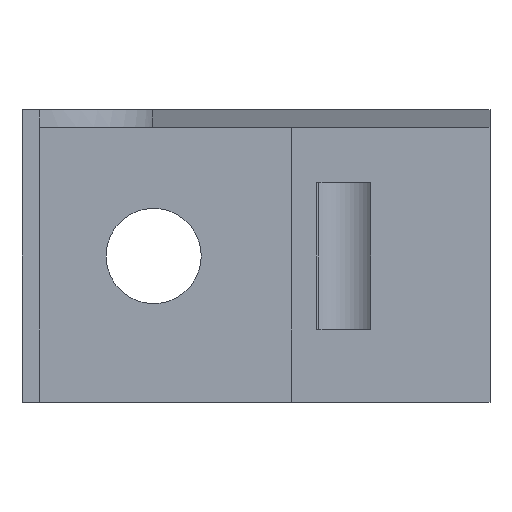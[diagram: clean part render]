
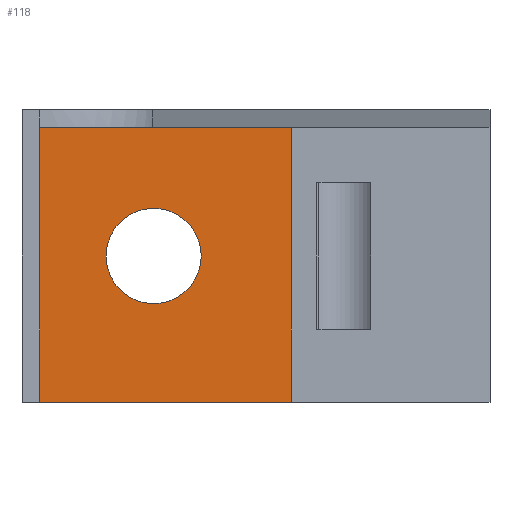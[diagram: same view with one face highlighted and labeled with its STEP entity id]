
A CAD part, left-side view. The second image highlights one B-rep face of the part: STEP entity #118.
In plain terms, the highlighted planar face has unit normal (-1, 0, 0).
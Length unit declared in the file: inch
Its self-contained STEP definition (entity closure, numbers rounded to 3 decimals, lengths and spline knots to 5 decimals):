
#118=ADVANCED_FACE('',(#256,#257),#258,.T.);
#256=FACE_OUTER_BOUND('',#495,.T.);
#257=FACE_BOUND('',#496,.T.);
#258=PLANE('',#497);
#495=EDGE_LOOP('',(#853,#854,#855,#856));
#496=EDGE_LOOP('',(#857,#858,#859,#860));
#497=AXIS2_PLACEMENT_3D('',#861,#862,#863);
#853=ORIENTED_EDGE('',*,*,#1151,.T.);
#854=ORIENTED_EDGE('',*,*,#1152,.F.);
#855=ORIENTED_EDGE('',*,*,#1153,.F.);
#856=ORIENTED_EDGE('',*,*,#1133,.T.);
#857=ORIENTED_EDGE('',*,*,#1154,.T.);
#858=ORIENTED_EDGE('',*,*,#1098,.T.);
#859=ORIENTED_EDGE('',*,*,#1142,.T.);
#860=ORIENTED_EDGE('',*,*,#1042,.T.);
#861=CARTESIAN_POINT('',(3.03935,0.57896,-0.075));
#862=DIRECTION('',(-1.0,-0.0,0.0));
#863=DIRECTION('',(0.0,-1.0,-0.0));
#1042=EDGE_CURVE('',#1225,#1223,#1226,.T.);
#1098=EDGE_CURVE('',#1318,#1316,#1319,.T.);
#1133=EDGE_CURVE('',#1373,#1371,#1374,.T.);
#1142=EDGE_CURVE('',#1316,#1225,#1387,.T.);
#1151=EDGE_CURVE('',#1371,#1398,#1399,.T.);
#1152=EDGE_CURVE('',#1400,#1398,#1401,.T.);
#1153=EDGE_CURVE('',#1373,#1400,#1402,.T.);
#1154=EDGE_CURVE('',#1223,#1318,#1403,.T.);
#1223=VERTEX_POINT('',#1492);
#1225=VERTEX_POINT('',#1495);
#1226=B_SPLINE_CURVE_WITH_KNOTS('',3,(#1496,#1497,#1498,#1499),.UNSPECIFIED.,.F.,.F.,(4,4),(0.0,1.0),.UNSPECIFIED.);
#1316=VERTEX_POINT('',#1657);
#1318=VERTEX_POINT('',#1660);
#1319=B_SPLINE_CURVE_WITH_KNOTS('',3,(#1661,#1662,#1663,#1664),.UNSPECIFIED.,.F.,.F.,(4,4),(0.0,1.0),.UNSPECIFIED.);
#1371=VERTEX_POINT('',#1770);
#1373=VERTEX_POINT('',#1773);
#1374=LINE('',#1774,#1775);
#1387=B_SPLINE_CURVE_WITH_KNOTS('',3,(#1794,#1795,#1796,#1797),.UNSPECIFIED.,.F.,.F.,(4,4),(0.0,1.0),.UNSPECIFIED.);
#1398=VERTEX_POINT('',#1813);
#1399=LINE('',#1814,#1815);
#1400=VERTEX_POINT('',#1816);
#1401=LINE('',#1817,#1818);
#1402=LINE('',#1819,#1820);
#1403=B_SPLINE_CURVE_WITH_KNOTS('',3,(#1821,#1822,#1823,#1824),.UNSPECIFIED.,.F.,.F.,(4,4),(0.0,1.0),.UNSPECIFIED.);
#1492=CARTESIAN_POINT('',(3.03935,0.62896,0.75312));
#1495=CARTESIAN_POINT('',(3.03935,0.83208,0.55));
#1496=CARTESIAN_POINT('',(3.03935,0.83208,0.55));
#1497=CARTESIAN_POINT('',(3.03935,0.83208,0.66218));
#1498=CARTESIAN_POINT('',(3.03935,0.74114,0.75312));
#1499=CARTESIAN_POINT('',(3.03935,0.62896,0.75312));
#1657=CARTESIAN_POINT('',(3.03935,0.62896,0.34688));
#1660=CARTESIAN_POINT('',(3.03935,0.42583,0.55));
#1661=CARTESIAN_POINT('',(3.03935,0.42583,0.55));
#1662=CARTESIAN_POINT('',(3.03935,0.42583,0.43782));
#1663=CARTESIAN_POINT('',(3.03935,0.51677,0.34688));
#1664=CARTESIAN_POINT('',(3.03935,0.62896,0.34688));
#1770=CARTESIAN_POINT('',(3.03935,0.04146,1.1));
#1773=CARTESIAN_POINT('',(3.03935,0.04146,-0.075));
#1774=CARTESIAN_POINT('',(3.03935,0.04146,-0.075));
#1775=VECTOR('',#1979,1.0);
#1794=CARTESIAN_POINT('',(3.03935,0.62896,0.34688));
#1795=CARTESIAN_POINT('',(3.03935,0.74114,0.34688));
#1796=CARTESIAN_POINT('',(3.03935,0.83208,0.43782));
#1797=CARTESIAN_POINT('',(3.03935,0.83208,0.55));
#1813=CARTESIAN_POINT('',(3.03935,1.11646,1.1));
#1814=CARTESIAN_POINT('',(3.03935,0.04146,1.1));
#1815=VECTOR('',#1994,1.0);
#1816=CARTESIAN_POINT('',(3.03935,1.11646,-0.075));
#1817=CARTESIAN_POINT('',(3.03935,1.11646,-0.075));
#1818=VECTOR('',#1995,1.0);
#1819=CARTESIAN_POINT('',(3.03935,0.04146,-0.075));
#1820=VECTOR('',#1996,1.0);
#1821=CARTESIAN_POINT('',(3.03935,0.62896,0.75312));
#1822=CARTESIAN_POINT('',(3.03935,0.51677,0.75312));
#1823=CARTESIAN_POINT('',(3.03935,0.42583,0.66218));
#1824=CARTESIAN_POINT('',(3.03935,0.42583,0.55));
#1979=DIRECTION('',(0.0,0.0,1.0));
#1994=DIRECTION('',(0.0,1.0,0.0));
#1995=DIRECTION('',(0.0,0.0,1.0));
#1996=DIRECTION('',(0.0,1.0,0.0));
